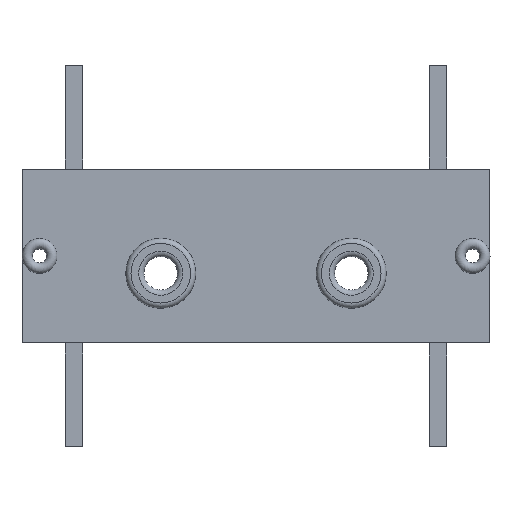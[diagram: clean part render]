
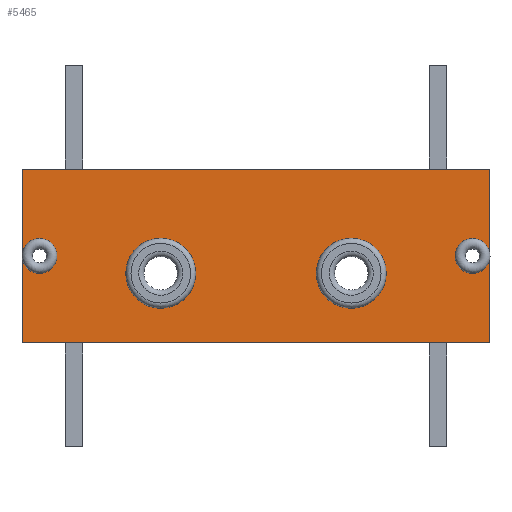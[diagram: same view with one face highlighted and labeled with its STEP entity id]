
A CAD part, top view. The second image highlights one B-rep face of the part: STEP entity #5465.
In plain terms, the highlighted planar face has unit normal (0, 0, 1).
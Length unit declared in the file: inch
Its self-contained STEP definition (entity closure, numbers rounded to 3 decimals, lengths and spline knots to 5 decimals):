
#122=FACE_BOUND('',#709,.T.);
#123=FACE_BOUND('',#710,.T.);
#124=FACE_BOUND('',#711,.T.);
#125=FACE_BOUND('',#712,.T.);
#151=CIRCLE('',#5915,0.0625);
#153=CIRCLE('',#5918,0.0625);
#155=CIRCLE('',#5921,0.034);
#157=CIRCLE('',#5924,0.034);
#434=FACE_OUTER_BOUND('',#708,.T.);
#708=EDGE_LOOP('',(#4666,#4667,#4668,#4669));
#709=EDGE_LOOP('',(#4670));
#710=EDGE_LOOP('',(#4671));
#711=EDGE_LOOP('',(#4672));
#712=EDGE_LOOP('',(#4673));
#1399=LINE('',#8693,#2077);
#1403=LINE('',#8700,#2081);
#1406=LINE('',#8706,#2084);
#1408=LINE('',#8709,#2086);
#2077=VECTOR('',#7177,0.3937);
#2081=VECTOR('',#7183,0.3937);
#2084=VECTOR('',#7188,0.3937);
#2086=VECTOR('',#7192,0.3937);
#2541=VERTEX_POINT('',#8663);
#2543=VERTEX_POINT('',#8669);
#2545=VERTEX_POINT('',#8675);
#2547=VERTEX_POINT('',#8681);
#2551=VERTEX_POINT('',#8690);
#2552=VERTEX_POINT('',#8692);
#2554=VERTEX_POINT('',#8698);
#2556=VERTEX_POINT('',#8704);
#3243=EDGE_CURVE('',#2541,#2541,#151,.T.);
#3246=EDGE_CURVE('',#2543,#2543,#153,.T.);
#3249=EDGE_CURVE('',#2545,#2545,#155,.T.);
#3252=EDGE_CURVE('',#2547,#2547,#157,.T.);
#3257=EDGE_CURVE('',#2551,#2552,#1399,.T.);
#3261=EDGE_CURVE('',#2554,#2551,#1403,.T.);
#3264=EDGE_CURVE('',#2556,#2554,#1406,.T.);
#3266=EDGE_CURVE('',#2552,#2556,#1408,.T.);
#4666=ORIENTED_EDGE('',*,*,#3266,.F.);
#4667=ORIENTED_EDGE('',*,*,#3257,.F.);
#4668=ORIENTED_EDGE('',*,*,#3261,.F.);
#4669=ORIENTED_EDGE('',*,*,#3264,.F.);
#4670=ORIENTED_EDGE('',*,*,#3243,.T.);
#4671=ORIENTED_EDGE('',*,*,#3246,.T.);
#4672=ORIENTED_EDGE('',*,*,#3249,.T.);
#4673=ORIENTED_EDGE('',*,*,#3252,.T.);
#4956=PLANE('',#5930);
#5465=ADVANCED_FACE('',(#434,#122,#123,#124,#125),#4956,.T.);
#5915=AXIS2_PLACEMENT_3D('',#8664,#7147,#7148);
#5918=AXIS2_PLACEMENT_3D('',#8670,#7154,#7155);
#5921=AXIS2_PLACEMENT_3D('',#8676,#7161,#7162);
#5924=AXIS2_PLACEMENT_3D('',#8682,#7168,#7169);
#5930=AXIS2_PLACEMENT_3D('',#8710,#7193,#7194);
#7147=DIRECTION('center_axis',(0.,0.,-1.));
#7148=DIRECTION('ref_axis',(-1.,0.,0.));
#7154=DIRECTION('center_axis',(0.,0.,-1.));
#7155=DIRECTION('ref_axis',(-1.,0.,0.));
#7161=DIRECTION('center_axis',(0.,0.,-1.));
#7162=DIRECTION('ref_axis',(-1.,0.,0.));
#7168=DIRECTION('center_axis',(0.,0.,-1.));
#7169=DIRECTION('ref_axis',(-1.,0.,0.));
#7177=DIRECTION('',(0.,-1.,0.));
#7183=DIRECTION('',(1.,0.,0.));
#7188=DIRECTION('',(0.,1.,0.));
#7192=DIRECTION('',(-1.,0.,0.));
#7193=DIRECTION('center_axis',(0.,0.,1.));
#7194=DIRECTION('ref_axis',(1.,0.,0.));
#8663=CARTESIAN_POINT('',(1.0125,0.2,0.));
#8664=CARTESIAN_POINT('Origin',(0.95,0.2,0.));
#8669=CARTESIAN_POINT('',(0.4625,0.2,0.));
#8670=CARTESIAN_POINT('Origin',(0.4,0.2,0.));
#8675=CARTESIAN_POINT('',(1.334,0.25,0.));
#8676=CARTESIAN_POINT('Origin',(1.3,0.25,0.));
#8681=CARTESIAN_POINT('',(0.084,0.25,0.));
#8682=CARTESIAN_POINT('Origin',(0.05,0.25,0.));
#8690=CARTESIAN_POINT('',(1.35,0.5,0.));
#8692=CARTESIAN_POINT('',(1.35,0.,0.));
#8693=CARTESIAN_POINT('',(1.35,0.5,0.));
#8698=CARTESIAN_POINT('',(0.,0.5,0.));
#8700=CARTESIAN_POINT('',(0.,0.5,0.));
#8704=CARTESIAN_POINT('',(0.,0.,0.));
#8706=CARTESIAN_POINT('',(0.,0.,0.));
#8709=CARTESIAN_POINT('',(1.35,0.,0.));
#8710=CARTESIAN_POINT('Origin',(0.675,0.25,0.));
